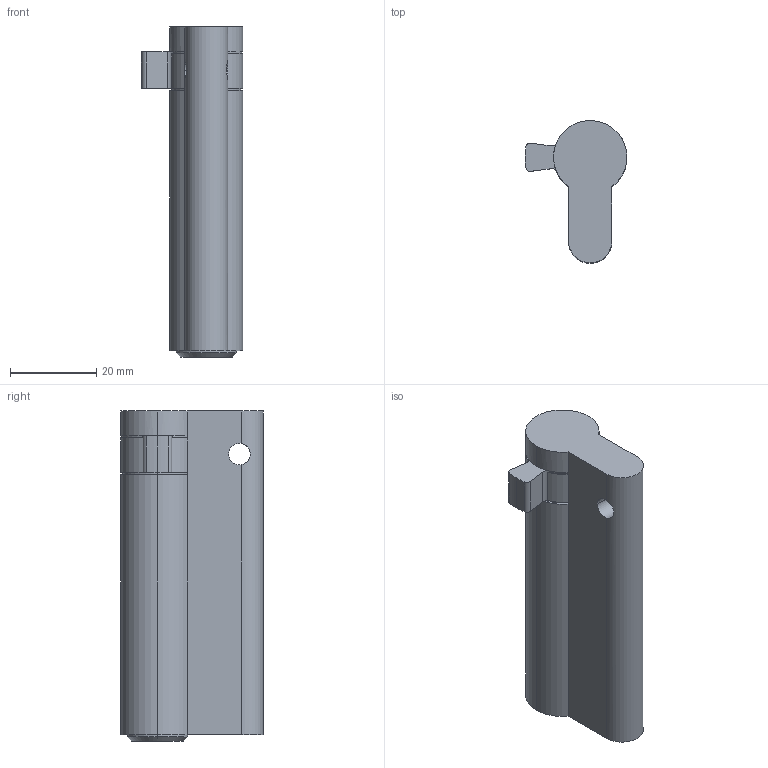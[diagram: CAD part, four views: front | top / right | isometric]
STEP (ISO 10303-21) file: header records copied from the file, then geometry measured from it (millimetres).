
FILE_DESCRIPTION (( 'STEP AP214' ), '1' );
FILE_NAME ('TPL-H-EU-513-R 29Oct2024.STEP', '2024-10-29T22:19:36', ( '' ), ( '' ), 'SwSTEP 2.0', 'SolidWorks 2023', '' );
FILE_SCHEMA (( 'AUTOMOTIVE_DESIGN' ));
Length unit declared in the file: millimetre
Products named in the file (1): TPL-H-EU-513-R 29Oct2024
Bounding box: 23.6 x 33 x 76.5 mm (x, y, z)
Volume: 28616.1 mm3; surface area: 7904.7 mm2
Topology: 1 solids, 1 shells, 46 faces, 127 edges, 80 vertices
Faces by surface type: cylinder 27, plane 16, cone 3
Entity records: 1575 total; most frequent: CARTESIAN_POINT 324, DIRECTION 278, ORIENTED_EDGE 254, EDGE_CURVE 127, AXIS2_PLACEMENT_3D 110, VERTEX_POINT 80, CIRCLE 63, VECTOR 58
